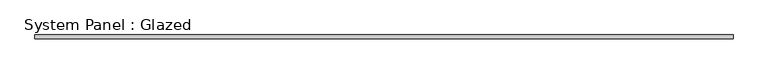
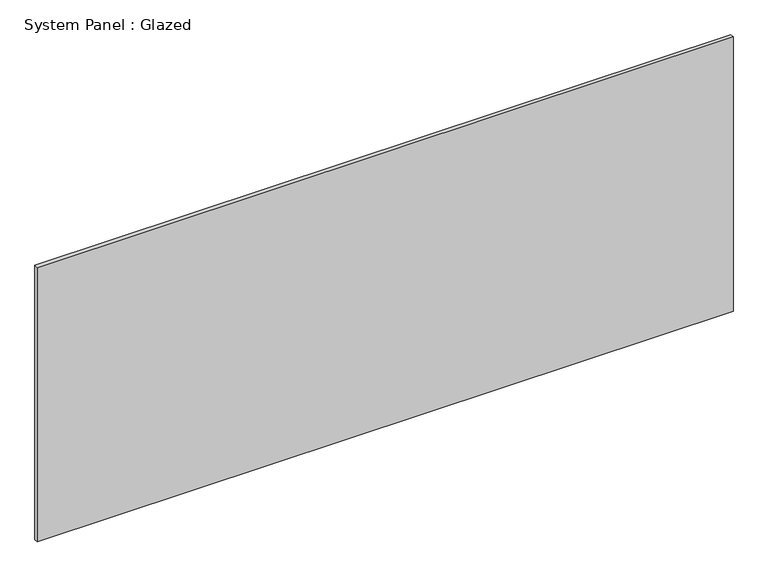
"""IFC4 building model written with IfcOpenShell, lengths in millimetres: plate geometry, System Panel : Glazed."""

from ifc_helpers import new_model, si_unit, origin, origin_with_axes, place, context, project, spatial, polyline, outline, extrude, source, transform, mapped, element, save


def system_panel_glazed_3e853062(model_context):
    return source(origin(), model_context, "Body", "SweptSolid", [
        extrude(outline(polyline([(2400.0, 24.5), (-2400.0, 24.5), (-2400.0, 49.5), (2400.0, 49.5), (2400.0, 24.5)])), origin_with_axes(), (0.0, 0.0, 1.0), 2000.0),
    ])


if __name__ == "__main__":
    model = new_model("IFC4")
    model_context = context("Model", 3, world=origin())
    ifc_project = project(units=[si_unit("LENGTHUNIT", "METRE", prefix="MILLI")], contexts=[model_context])
    site = spatial("IfcSite", under=ifc_project)
    building = spatial("IfcBuilding", under=site)
    placement = place(None, origin())
    system_panel_glazed_shape = system_panel_glazed_3e853062(model_context)
    element("IfcPlate", 1, ObjectType="System Panel : Glazed", at=placement, inside=building, context=model_context, shape_type="MappedRepresentation", body=[
        mapped(system_panel_glazed_shape, transform((0.0, 0.0, 0.0), x_axis=(1.0, 0.0, 0.0), y_axis=(0.0, 1.0, 0.0), z_axis=(0.0, 0.0, 1.0))),
    ])
    save(model, "model.ifc")
